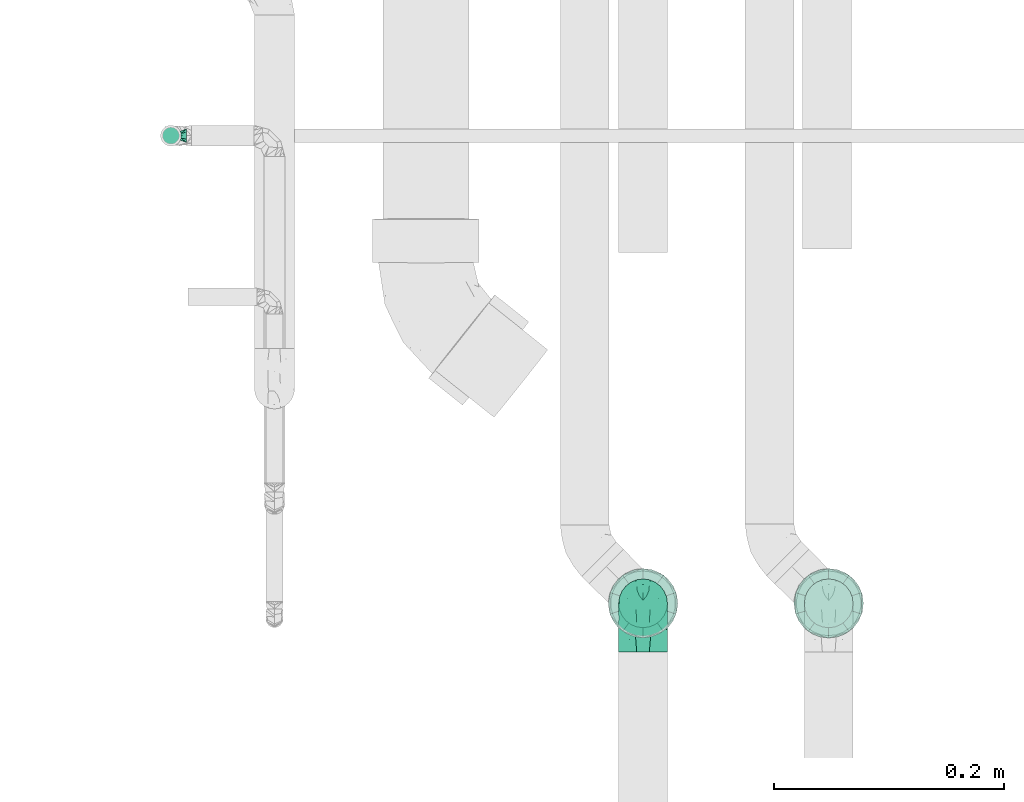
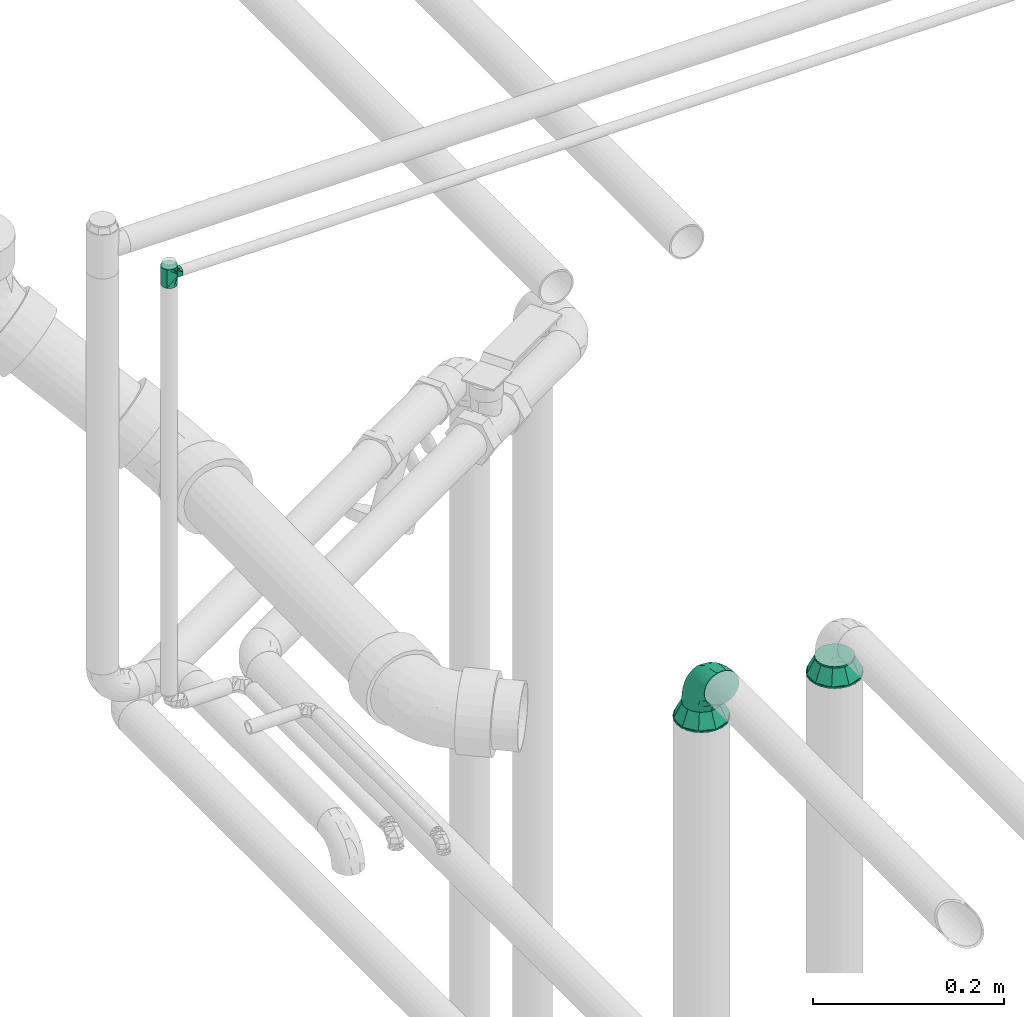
# One storey, part 69 of 108: 4 flow fittings.
"""IFC2X3 building model written with IfcOpenShell, lengths in millimetres."""

from ifc_helpers import new_model, entity, si_unit, converted_unit, derived_unit, direction, frame, origin_with_axes, place, context, subcontext, project, spatial, open_shell, surface_model, source, transform, mapped, type_object, element, save


model = new_model("IFC2X3")

# Units and contexts
model_context = context("Model", 3, precision=0.01, world=frame((0.0, 4.29681676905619e-09, 0.0)), true_north=direction((4.01073788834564e-13, 1.0)))
plan_context = context("Plan", 3, precision=0.01, world=frame((0.0, 4.29681676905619e-09, 0.0)), true_north=direction((4.01073788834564e-13, 1.0)))
body_context = subcontext(model_context, "Body", "Model", "MODEL_VIEW")
ifc_project = project(units=[converted_unit("PLANEANGLEUNIT", "DEGREE", entity("IfcPositiveLengthMeasure", 0.0174532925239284), si_unit("PLANEANGLEUNIT", "RADIAN"), dimensions=[0, 0, 0, 0, 0, 0, 0]), si_unit("AREAUNIT", "SQUARE_METRE"), si_unit("LENGTHUNIT", "METRE", prefix="MILLI"), si_unit("MASSUNIT", "GRAM", prefix="KILO"), si_unit("POWERUNIT", "WATT"), si_unit("PRESSUREUNIT", "PASCAL", prefix="KILO"), si_unit("FORCEUNIT", "NEWTON", prefix="KILO"), si_unit("ELECTRICVOLTAGEUNIT", "VOLT"), si_unit("ELECTRICCURRENTUNIT", "AMPERE"), si_unit("THERMODYNAMICTEMPERATUREUNIT", "DEGREE_CELSIUS"), si_unit("TIMEUNIT", "SECOND"), si_unit("VOLUMEUNIT", "CUBIC_METRE"), derived_unit("LINEARVELOCITYUNIT", [(si_unit("LENGTHUNIT", "METRE"), 1), (si_unit("TIMEUNIT", "SECOND"), -1)]), derived_unit("VOLUMETRICFLOWRATEUNIT", [(si_unit("VOLUMEUNIT", "CUBIC_METRE"), 1), (si_unit("TIMEUNIT", "SECOND"), -1)]), derived_unit("THERMALTRANSMITTANCEUNIT", [(si_unit("POWERUNIT", "WATT"), 1), (si_unit("THERMODYNAMICTEMPERATUREUNIT", "KELVIN"), -1), (si_unit("AREAUNIT", "SQUARE_METRE"), -1)]), derived_unit("SOUNDPRESSUREUNIT", [(si_unit("PRESSUREUNIT", "PASCAL"), 1)])], contexts=[model_context, plan_context])

# Site, building, storey
site_placement = place(None, frame((0.0, -4.29681676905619e-09, 0.0), z_axis=(0.0, 0.0, 1.0), x_axis=(1.0, 0.0, 0.0)))
site = spatial("IfcSite", under=ifc_project, at=site_placement, CompositionType="ELEMENT")
building_placement = place(site_placement, frame((0.0, 4.29681676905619e-09, 0.0), z_axis=(0.0, 0.0, 1.0), x_axis=(1.0, 0.0, 0.0)))
building = spatial("IfcBuilding", under=site, at=building_placement, Name="mc-building", CompositionType="ELEMENT")
storey_placement = place(building_placement, frame((0.0, 0.0, 210200.0), z_axis=(0.0, 0.0, 1.0), x_axis=(1.0, 0.0, 0.0)))
storey = spatial("IfcBuildingStorey", under=building, at=storey_placement, Name="Nivå F - 0,7 m", CompositionType="ELEMENT", Elevation=210200.0)

# Flow fittings
pipe_fitting_type_1 = type_object("IfcPipeFittingType", Name="magi_pipe_fe_elbow_short_001", PredefinedType="BEND")
shared_shape_1 = source(origin_with_axes(), body_context, "Body", "SurfaceModel", [
    surface_model("IfcShellBasedSurfaceModel", [(-42.4, 10.6, -18.35974), (-42.4, 5.48696, -20.47763), (-42.4, 0.0, -21.2), (-42.4, 14.99066, -14.99066), (-42.4, 20.47763, -5.48696), (-42.4, 18.35974, -10.6), (-42.4, -14.99066, 14.99066), (-42.4, -21.2, 0.0), (-42.4, -10.6, -18.35974), (-42.4, -14.99066, -14.99066), (-42.4, -5.48696, -20.47763), (-42.4, -18.35974, -10.6), (-42.4, -20.47763, -5.48696), (-42.4, 10.6, 18.35974), (-42.4, 20.47763, 5.48696), (-42.4, 18.35974, 10.6), (-42.4, 14.99066, 14.99066), (-42.4, 5.48696, 20.47763), (-42.4, 0.0, 21.2), (-42.4, -20.47763, 5.48696), (-42.4, -18.35974, 10.6), (-42.4, -10.6, 18.35974), (-42.4, -5.48696, 20.47763), (-42.4, 21.2, 0.0), (0.0, 42.4, -21.2), (-5.48696, 42.4, -20.47763), (-10.6, 42.4, -18.35974), (-14.99066, 42.4, -14.99066), (-18.35974, 42.4, -10.6), (-20.47763, 42.4, -5.48696), (21.2, 42.4, 0.0), (5.48696, 42.4, -20.47763), (14.99066, 42.4, -14.99066), (10.6, 42.4, -18.35974), (18.35974, 42.4, -10.6), (20.47763, 42.4, -5.48696), (14.99066, 42.4, 14.99066), (-20.47763, 42.4, 5.48696), (-10.6, 42.4, 18.35974), (-14.99066, 42.4, 14.99066), (-18.35974, 42.4, 10.6), (-5.48696, 42.4, 20.47763), (0.0, 42.4, 21.2), (18.35974, 42.4, 10.6), (20.47763, 42.4, 5.48696), (5.48696, 42.4, 20.47763), (10.6, 42.4, 18.35974), (-21.2, 42.4, 0.0), (-31.10239, -16.47009, 11.90111), (-27.83957, -12.231, 15.79732), (-30.23067, -18.77937, 0.0), (-18.74048, -13.50096, 10.69998), (-28.17586, -18.50359, 6.61185), (18.50359, 28.17586, 6.61185), (14.95929, 16.60735, 5.43468), (16.35874, 18.06133, 0.0), (-20.72313, 33.83635, 9.21426), (-17.70981, 33.00599, 13.92769), (-31.16033, -8.01664, 19.07348), (-32.38682, -2.80842, 20.83743), (-29.68688, 3.24967, 21.16387), (-7.74467, -9.46536, 0.0), (-16.60735, -14.95929, 5.43468), (-18.06133, -16.35874, 0.0), (-16.37932, -5.14532, 17.61254), (-21.10659, -0.19025, 20.54817), (-1.82445, -3.58377, 9.55223), (-0.35533, 0.43745, 12.66367), (-7.20655, -5.07682, 13.06146), (-33.14056, 17.6728, 13.91288), (-7.36799, 20.84806, 21.16196), (-15.70315, 15.70315, 20.68489), (-12.62356, 9.26422, 21.0908), (-36.67879, 12.83836, 17.27427), (-7.91358, 36.5686, 19.85759), (-2.90555, 31.71221, 21.14793), (-33.84689, 20.71971, 9.21285), (-33.51649, 22.58113, 4.66115), (-26.3226, 26.3226, 7.92474), (-32.67995, 8.31454, 20.02643), (-5.53379, 14.19921, 20.81623), (-10.53385, 3.88918, 19.79653), (-2.16577, 11.45378, 19.48254), (-3.78693, 3.78693, 17.3328), (12.231, 27.83957, 15.79732), (13.50096, 18.74047, 10.69998), (16.47009, 31.10239, 11.90111), (-22.53806, 14.38475, 19.60876), (-23.29615, 9.08095, 20.82061), (2.80842, 32.38682, 20.83743), (8.01664, 31.16033, 19.07348), (5.14532, 16.37932, 17.61254), (18.77937, 30.23067, 0.0), (-20.80278, 5.19491, 21.19095), (-19.62579, 22.38752, 17.42006), (-29.19336, 14.39093, 17.85259), (-22.31569, 34.20044, 4.54807), (-26.56962, 27.80621, 3.73106), (9.67657, 17.17133, 14.49993), (-24.04026, 31.8, 0.0), (-9.16861, 28.72652, 20.19004), (-12.09761, 21.9456, 20.37969), (-15.36991, 27.40112, 17.818), (-16.88976, 20.52477, 19.2896), (-12.95169, 35.54896, 17.36222), (-17.17133, -9.67657, 14.49993), (-21.98655, 28.10245, 11.99898), (-22.34699, 23.67592, 15.01692), (-27.22822, 22.77969, 11.82161), (0.19025, 21.10658, 20.54817), (4.8276, 7.36347, 13.42842), (-10.06209, -9.46364, 9.95114), (1.25876, -2.7536, 5.73797), (6.43781, 3.77591, 7.40371), (6.57528, 2.20066, 3.17705), (10.91934, 8.84313, 5.00748), (10.64415, 10.99764, 8.89767), (-31.8, 24.04026, 0.0), (-5.71381, -8.43063, 6.15529), (2.57199, -2.57199, 0.0), (9.46536, 7.74467, 0.0), (-17.17133, -9.67657, -14.49993), (-27.83957, -12.231, -15.79732), (-16.37932, -5.14532, -17.61254), (-18.74048, -13.50096, -10.69998), (-33.00599, 17.70981, -13.92769), (-35.54896, 12.95169, -17.36222), (-34.20044, 22.31569, -4.54807), (-28.17586, -18.50359, -6.61185), (-26.3226, 26.3226, -7.92474), (-33.83635, 20.72313, -9.21426), (-16.60735, -14.95929, -5.43468), (-20.52477, 16.88976, -19.2896), (-21.9456, 12.0976, -20.37969), (-27.40112, 15.36991, -17.818), (-12.83836, 36.67879, -17.27427), (-17.6728, 33.14056, -13.91288), (8.01664, 31.16033, -19.07348), (5.14532, 16.37932, -17.61254), (0.19025, 21.10658, -20.54817), (-36.5686, 7.91358, -19.85759), (-31.10239, -16.47009, -11.90111), (-31.16033, -8.01664, -19.07348), (-14.38475, 22.53806, -19.60876), (-8.31454, 32.67995, -20.02643), (-9.08095, 23.29615, -20.82061), (-32.38682, -2.80842, -20.83743), (-20.84806, 7.36799, -21.16196), (-15.70315, 15.70314, -20.68489), (-9.26422, 12.62356, -21.0908), (-31.71221, 2.90555, -21.14793), (-22.58113, 33.51649, -4.66115), (-20.71971, 33.84689, -9.21285), (-28.72652, 9.16861, -20.19004), (-27.80621, 26.56962, -3.73106), (-5.19491, 20.80278, -21.19095), (-22.38752, 19.62579, -17.42006), (-14.39093, 29.19336, -17.85259), (2.80842, 32.38682, -20.83743), (-3.24967, 29.68688, -21.16387), (16.47009, 31.10239, -11.90111), (12.231, 27.83957, -15.79732), (6.57528, 2.20067, -3.17705), (10.91934, 8.84313, -5.00749), (-14.19921, 5.53379, -20.81623), (-3.88918, 10.53385, -19.79653), (-11.45378, 2.16577, -19.48254), (1.25876, -2.7536, -5.73797), (-5.71381, -8.43063, -6.15529), (-1.82445, -3.58377, -9.55223), (13.50096, 18.74048, -10.69998), (18.50359, 28.17586, -6.61185), (14.95929, 16.60735, -5.43468), (-28.10245, 21.98655, -11.99898), (9.67657, 17.17133, -14.49993), (10.64415, 10.99764, -8.89767), (4.8276, 7.36347, -13.42842), (-23.67592, 22.34699, -15.01692), (-22.77969, 27.22822, -11.82161), (-21.10658, -0.19025, -20.54817), (-3.78693, 3.78693, -17.3328), (-7.20655, -5.07682, -13.06146), (-10.06209, -9.46364, -9.95113), (-0.35533, 0.43745, -12.66367), (6.43781, 3.77591, -7.40371)], [open_shell([[[0, 1, 2]], [[3, 0, 2]], [[4, 5, 3]], [[2, 4, 3]], [[6, 2, 7]], [[8, 9, 10]], [[11, 10, 9]], [[12, 7, 11]], [[2, 10, 11]], [[11, 7, 2]], [[6, 4, 2]], [[13, 14, 4]], [[15, 14, 16]], [[4, 6, 13]], [[16, 14, 13]], [[17, 13, 18]], [[19, 20, 7]], [[7, 20, 6]], [[21, 22, 6]], [[18, 6, 22]], [[6, 18, 13]], [[23, 4, 14]], [[24, 25, 26]], [[24, 26, 27]], [[27, 28, 29]], [[27, 29, 24]], [[24, 29, 30]], [[31, 32, 33]], [[31, 24, 32]], [[34, 30, 35]], [[32, 24, 34]], [[24, 30, 34]], [[29, 36, 30]], [[29, 37, 38]], [[39, 37, 40]], [[36, 29, 38]], [[38, 37, 39]], [[41, 42, 38]], [[30, 43, 44]], [[36, 43, 30]], [[36, 45, 46]], [[45, 36, 42]], [[38, 42, 36]], [[37, 29, 47]], [[6, 48, 49]], [[19, 7, 50]], [[51, 48, 52]], [[53, 54, 55]], [[48, 6, 20]], [[19, 52, 20]], [[40, 56, 57]], [[49, 21, 6]], [[49, 58, 21]], [[18, 59, 60]], [[61, 62, 63]], [[58, 64, 65]], [[66, 67, 68]], [[15, 16, 69]], [[70, 71, 72]], [[13, 73, 16]], [[22, 59, 18]], [[41, 74, 75]], [[18, 60, 17]], [[15, 69, 76]], [[16, 73, 69]], [[23, 14, 77]], [[14, 15, 76]], [[77, 76, 78]], [[17, 79, 13]], [[80, 81, 82]], [[68, 83, 64]], [[84, 36, 46]], [[85, 86, 84]], [[87, 79, 88]], [[21, 58, 22]], [[42, 89, 45]], [[53, 44, 43]], [[42, 41, 75]], [[84, 90, 91]], [[43, 86, 53]], [[92, 44, 53]], [[86, 43, 36]], [[90, 46, 45]], [[53, 55, 92]], [[88, 93, 72]], [[54, 53, 85]], [[87, 94, 95]], [[78, 96, 97]], [[98, 84, 91]], [[99, 96, 47]], [[79, 17, 60]], [[96, 78, 56]], [[62, 52, 63]], [[57, 39, 40]], [[100, 70, 75]], [[101, 102, 103]], [[19, 50, 52]], [[104, 38, 39]], [[74, 41, 38]], [[57, 102, 104]], [[105, 64, 49]], [[90, 84, 46]], [[40, 37, 56]], [[56, 106, 57]], [[102, 57, 107]], [[95, 107, 69]], [[76, 108, 78]], [[100, 101, 70]], [[89, 75, 109]], [[64, 58, 49]], [[63, 52, 50]], [[59, 58, 65]], [[105, 49, 51]], [[64, 83, 81]], [[89, 90, 45]], [[30, 44, 92]], [[109, 82, 91]], [[109, 91, 90]], [[91, 83, 110]], [[111, 68, 105]], [[66, 68, 111]], [[62, 51, 52]], [[66, 112, 113]], [[114, 115, 113]], [[98, 85, 84]], [[52, 48, 20]], [[49, 48, 51]], [[84, 86, 36]], [[53, 86, 85]], [[88, 79, 60]], [[73, 79, 95]], [[96, 56, 37]], [[78, 108, 106]], [[87, 103, 94]], [[100, 74, 104]], [[108, 69, 107]], [[78, 97, 77]], [[88, 72, 71]], [[109, 75, 70]], [[81, 72, 65]], [[70, 72, 80]], [[75, 89, 42]], [[90, 89, 109]], [[58, 59, 22]], [[60, 59, 65]], [[67, 83, 68]], [[110, 113, 116]], [[88, 60, 93]], [[87, 88, 71]], [[103, 87, 71]], [[79, 87, 95]], [[101, 103, 71]], [[94, 103, 102]], [[47, 96, 37]], [[96, 99, 97]], [[99, 117, 97]], [[97, 117, 77]], [[23, 77, 117]], [[14, 76, 77]], [[60, 65, 93]], [[65, 72, 93]], [[70, 101, 71]], [[102, 101, 100]], [[69, 108, 76]], [[106, 108, 107]], [[57, 106, 107]], [[78, 106, 56]], [[57, 104, 39]], [[100, 104, 102]], [[102, 107, 94]], [[95, 94, 107]], [[64, 81, 65]], [[82, 81, 83]], [[91, 82, 83]], [[80, 82, 109]], [[70, 80, 109]], [[81, 80, 72]], [[79, 73, 13]], [[69, 73, 95]], [[104, 74, 38]], [[75, 74, 100]], [[62, 61, 118]], [[111, 62, 118]], [[113, 115, 116]], [[119, 118, 61]], [[111, 105, 51]], [[113, 112, 114]], [[120, 55, 54]], [[68, 64, 105]], [[91, 110, 98]], [[116, 98, 110]], [[62, 111, 51]], [[66, 111, 118]], [[112, 66, 118]], [[67, 113, 110]], [[118, 119, 112]], [[114, 112, 119]], [[119, 120, 114]], [[115, 120, 54]], [[120, 115, 114]], [[116, 54, 85]], [[54, 116, 115]], [[116, 85, 98]], [[113, 67, 66]], [[83, 67, 110]], [[121, 122, 123]], [[122, 121, 124]], [[5, 125, 3]], [[3, 126, 0]], [[117, 127, 23]], [[50, 12, 128]], [[127, 129, 130]], [[128, 131, 63]], [[132, 133, 134]], [[27, 135, 136]], [[137, 138, 139]], [[0, 140, 1]], [[128, 11, 141]], [[142, 8, 10]], [[128, 63, 50]], [[5, 4, 130]], [[11, 9, 141]], [[143, 144, 145]], [[146, 10, 2]], [[147, 148, 149]], [[11, 128, 12]], [[124, 141, 122]], [[150, 2, 1]], [[151, 152, 129]], [[125, 134, 126]], [[153, 147, 150]], [[127, 154, 129]], [[145, 155, 149]], [[47, 29, 151]], [[143, 156, 157]], [[152, 29, 28]], [[24, 158, 159]], [[122, 9, 8]], [[27, 26, 135]], [[144, 26, 25]], [[32, 160, 161]], [[24, 31, 158]], [[120, 162, 163]], [[130, 125, 5]], [[27, 136, 28]], [[1, 140, 150]], [[33, 161, 137]], [[142, 122, 8]], [[24, 159, 25]], [[164, 165, 166]], [[167, 168, 169]], [[34, 160, 32]], [[161, 33, 32]], [[170, 160, 171]], [[131, 128, 124]], [[30, 92, 35]], [[35, 92, 171]], [[172, 171, 55]], [[35, 171, 34]], [[144, 25, 159]], [[130, 173, 125]], [[174, 175, 176]], [[136, 152, 28]], [[33, 137, 31]], [[122, 142, 123]], [[134, 125, 177]], [[157, 177, 136]], [[152, 178, 129]], [[153, 133, 147]], [[146, 150, 179]], [[146, 142, 10]], [[7, 12, 50]], [[179, 166, 123]], [[179, 123, 142]], [[123, 180, 181]], [[138, 137, 161]], [[55, 171, 92]], [[158, 137, 139]], [[174, 161, 170]], [[138, 180, 165]], [[180, 138, 176]], [[124, 121, 182]], [[176, 183, 180]], [[61, 131, 168]], [[169, 168, 182]], [[172, 170, 171]], [[122, 141, 9]], [[128, 141, 124]], [[171, 160, 34]], [[161, 160, 170]], [[145, 144, 159]], [[135, 144, 157]], [[127, 130, 4]], [[129, 178, 173]], [[143, 132, 156]], [[153, 140, 126]], [[178, 136, 177]], [[129, 154, 151]], [[145, 149, 148]], [[179, 150, 147]], [[165, 149, 139]], [[147, 149, 164]], [[150, 146, 2]], [[142, 146, 179]], [[137, 158, 31]], [[159, 158, 139]], [[174, 138, 161]], [[184, 169, 183]], [[145, 159, 155]], [[143, 145, 148]], [[132, 143, 148]], [[144, 143, 157]], [[133, 132, 148]], [[156, 132, 134]], [[23, 127, 4]], [[127, 117, 154]], [[117, 99, 154]], [[154, 99, 151]], [[47, 151, 99]], [[29, 152, 151]], [[159, 139, 155]], [[139, 149, 155]], [[147, 133, 148]], [[134, 133, 153]], [[136, 178, 152]], [[173, 178, 177]], [[125, 173, 177]], [[129, 173, 130]], [[125, 126, 3]], [[153, 126, 134]], [[134, 177, 156]], [[157, 156, 177]], [[138, 165, 139]], [[166, 165, 180]], [[123, 166, 180]], [[164, 166, 179]], [[147, 164, 179]], [[165, 164, 149]], [[144, 135, 26]], [[136, 135, 157]], [[126, 140, 0]], [[150, 140, 153]], [[182, 131, 124]], [[168, 119, 61]], [[119, 167, 162]], [[63, 131, 61]], [[172, 163, 175]], [[172, 55, 120]], [[123, 181, 121]], [[182, 121, 181]], [[175, 174, 170]], [[176, 138, 174]], [[169, 182, 181]], [[131, 182, 168]], [[183, 169, 181]], [[167, 169, 184]], [[162, 167, 184]], [[119, 168, 167]], [[163, 162, 184]], [[120, 119, 162]], [[175, 163, 184]], [[120, 163, 172]], [[176, 175, 184]], [[172, 175, 170]], [[180, 183, 181]], [[184, 183, 176]]])]),
])
flow_fitting_1_placement = place(storey_placement, frame((324448.8625, 462903.525, 2883.28479999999), z_axis=(-1.0, 0.0, 0.0), x_axis=(0.0, 1.0, 0.0)))
element("IfcFlowFitting", 1, at=flow_fitting_1_placement, inside=storey, type_object=pipe_fitting_type_1, Name="magi_pipe_fe_elbow_short_001", context=body_context, shape_type="MappedRepresentation", body=[
    mapped(shared_shape_1, transform((0.0, 0.0, 0.0), scale=1.0)),
])
pipe_fitting_type_2 = type_object("IfcPipeFittingType", Name="magi_pipe_fe_reducer_centric_short_001", PredefinedType="TRANSITION")
shared_shape_2 = source(origin_with_axes(), body_context, "Body", "SurfaceModel", [
    surface_model("IfcShellBasedSurfaceModel", [(-2.0, -10.6, -18.35974), (-2.0, 0.0, -21.2), (-2.0, -5.48696, -20.47763), (-2.0, 5.48696, -20.47763), (-2.0, 10.6, -18.35974), (-2.0, 0.0, 21.2), (-2.0, 5.48696, 20.47763), (-2.0, 10.6, 18.35974), (-2.0, 14.99066, 14.99066), (-2.0, 18.35974, 10.6), (-2.0, 20.47763, 5.48696), (-2.0, -21.2, 0.0), (-2.0, -14.99066, -14.99066), (-2.0, -5.48696, 20.47763), (-2.0, -14.99066, 14.99066), (-2.0, -10.6, 18.35974), (-2.0, -18.35974, 10.6), (-2.0, -20.47763, 5.48696), (-2.0, 20.47763, -5.48696), (-2.0, 14.99066, -14.99066), (-2.0, 18.35974, -10.6), (-2.0, -18.35974, -10.6), (-2.0, -20.47763, -5.48696), (-2.0, 21.2, 0.0), (0.0, 10.6, -18.35974), (0.0, 0.0, -21.2), (0.0, 5.48696, -20.47763), (0.0, 20.47763, -5.48696), (0.0, 14.99066, -14.99066), (0.0, -21.2, 0.0), (0.0, -14.99066, -14.99066), (0.0, 18.35974, -10.6), (0.0, -10.6, -18.35974), (0.0, -5.48696, -20.47763), (0.0, -18.35974, -10.6), (0.0, -20.47763, -5.48696), (0.0, -18.35974, 10.6), (0.0, 21.2, 0.0), (0.0, 20.47763, 5.48696), (0.0, 18.35974, 10.6), (0.0, 14.99066, 14.99066), (0.0, 0.0, 21.2), (0.0, 10.6, 18.35974), (0.0, 5.48696, 20.47763), (0.0, -14.99066, 14.99066), (0.0, -20.47763, 5.48696), (0.0, -5.48696, 20.47763), (0.0, -10.6, 18.35974), (20.0, 7.81634, -29.17096), (20.0, 15.1, -26.15397), (20.0, 21.35462, -21.35462), (20.0, 30.2, 0.0), (20.0, 26.15397, -15.1), (20.0, 29.17096, -7.81634), (20.0, -15.1, -26.15397), (20.0, -29.17096, 7.81634), (20.0, 0.0, -30.2), (20.0, -7.81634, -29.17096), (20.0, -21.35462, -21.35462), (20.0, -29.17096, -7.81634), (20.0, -26.15397, -15.1), (20.0, 29.17096, 7.81634), (20.0, 26.15397, 15.1), (20.0, 21.35462, 21.35462), (20.0, 0.0, 30.2), (20.0, 15.1, 26.15397), (20.0, 7.81634, 29.17096), (20.0, -21.35462, 21.35462), (20.0, -26.15397, 15.1), (20.0, -30.2, 0.0), (20.0, -7.81634, 29.17096), (20.0, -15.1, 26.15397), (18.0, 21.35462, 21.35462), (18.0, 0.0, 30.2), (18.0, 7.81634, 29.17096), (18.0, 15.1, 26.15397), (18.0, 26.15397, 15.1), (18.0, 29.17096, 7.81634), (18.0, -29.17096, 7.81634), (18.0, 30.2, 0.0), (18.0, -7.81634, 29.17096), (18.0, -21.35462, 21.35462), (18.0, -15.1, 26.15397), (18.0, -26.15397, 15.1), (18.0, -30.2, 0.0), (18.0, 29.17096, -7.81634), (18.0, 26.15397, -15.1), (18.0, 21.35462, -21.35462), (18.0, 15.1, -26.15397), (18.0, 7.81634, -29.17096), (18.0, -15.1, -26.15397), (18.0, -29.17096, -7.81634), (18.0, -21.35462, -21.35462), (18.0, -26.15397, -15.1), (18.0, 0.0, -30.2), (18.0, -7.81634, -29.17096), (18.0, 9.33231, 28.72191), (18.0, -9.33231, 28.72191), (18.0, 24.43231, -17.75111), (18.0, 24.43231, 17.75111), (18.0, -24.43231, 17.75111), (18.0, -24.43231, -17.75111), (18.0, -9.33231, -28.72191), (18.0, 9.33231, -28.72191), (0.0, 6.55116, 20.1624), (0.0, -6.55116, 20.1624), (0.0, -17.15116, -12.46105), (0.0, -17.15116, 12.46105), (0.0, 17.15116, 12.46105), (0.0, 17.15116, -12.46105), (0.0, -6.55116, -20.1624), (0.0, 6.55116, -20.1624), (18.0, -27.31616, -8.87556), (0.0, -19.17558, -6.23052), (0.0, 0.0, -20.1624), (18.0, 0.0, -28.72191), (0.0, -11.85116, -16.31172), (18.0, -16.88231, -23.23651), (18.0, 28.43849, -5.42138), (18.0, 26.67698, -10.84276), (0.0, 19.17558, -6.23052), (18.0, 16.88231, -23.23651), (0.0, 11.85116, -16.31172), (18.0, 27.31616, 8.87556), (0.0, 19.17558, 6.23052), (0.0, 0.0, 20.1624), (18.0, 0.0, 28.72191), (0.0, 11.85116, 16.31172), (18.0, 16.88231, 23.23651), (18.0, -28.43849, 5.42138), (18.0, -26.67698, 10.84276), (0.0, -19.17558, 6.23052), (18.0, -16.88231, 23.23651), (0.0, -11.85116, 16.31172)], [open_shell([[[0, 1, 2]], [[3, 1, 4]], [[5, 6, 7]], [[5, 7, 8]], [[8, 9, 10]], [[8, 10, 5]], [[11, 5, 12]], [[13, 14, 15]], [[13, 5, 14]], [[16, 11, 17]], [[14, 5, 16]], [[5, 11, 16]], [[5, 10, 12]], [[10, 18, 4]], [[19, 18, 20]], [[12, 10, 4]], [[4, 18, 19]], [[11, 21, 22]], [[12, 21, 11]], [[0, 12, 4]], [[1, 0, 4]], [[18, 10, 23]], [[24, 25, 26]], [[27, 24, 28]], [[29, 30, 24]], [[27, 28, 31]], [[27, 29, 24]], [[25, 32, 33]], [[25, 24, 32]], [[34, 29, 35]], [[32, 24, 30]], [[34, 30, 29]], [[36, 27, 37]], [[38, 39, 40]], [[38, 40, 41]], [[42, 43, 41]], [[42, 41, 40]], [[38, 41, 44]], [[29, 36, 45]], [[27, 36, 29]], [[44, 46, 47]], [[36, 38, 44]], [[41, 46, 44]], [[36, 37, 38]], [[22, 35, 11]], [[21, 34, 22]], [[32, 12, 0]], [[21, 12, 30]], [[33, 0, 2]], [[22, 34, 35]], [[35, 29, 11]], [[33, 32, 0]], [[30, 12, 32]], [[30, 34, 21]], [[25, 33, 2]], [[2, 1, 25]], [[3, 26, 1]], [[4, 24, 3]], [[31, 19, 20]], [[4, 19, 28]], [[27, 20, 18]], [[4, 28, 24]], [[24, 26, 3]], [[37, 27, 18]], [[31, 20, 27]], [[31, 28, 19]], [[23, 37, 18]], [[1, 26, 25]], [[10, 38, 23]], [[9, 39, 10]], [[42, 8, 7]], [[9, 8, 40]], [[43, 7, 6]], [[10, 39, 38]], [[38, 37, 23]], [[43, 42, 7]], [[40, 8, 42]], [[40, 39, 9]], [[41, 43, 6]], [[6, 5, 41]], [[13, 46, 5]], [[15, 47, 13]], [[36, 14, 16]], [[15, 14, 44]], [[45, 16, 17]], [[15, 44, 47]], [[47, 46, 13]], [[29, 45, 17]], [[36, 16, 45]], [[36, 44, 14]], [[11, 29, 17]], [[5, 46, 41]], [[48, 49, 50]], [[48, 50, 51]], [[52, 53, 51]], [[52, 51, 50]], [[54, 48, 55]], [[56, 54, 57]], [[56, 48, 54]], [[58, 59, 60]], [[59, 58, 54]], [[54, 55, 59]], [[55, 48, 51]], [[61, 62, 63]], [[63, 64, 51]], [[65, 66, 64]], [[65, 64, 63]], [[51, 64, 67]], [[55, 67, 68]], [[69, 59, 55]], [[67, 70, 71]], [[55, 51, 67]], [[70, 67, 64]], [[61, 63, 51]], [[72, 73, 74]], [[72, 74, 75]], [[72, 76, 77]], [[73, 72, 78]], [[79, 78, 72]], [[80, 81, 82]], [[80, 73, 81]], [[81, 78, 83]], [[73, 78, 81]], [[78, 79, 84]], [[79, 72, 77]], [[79, 85, 86]], [[79, 86, 87]], [[87, 88, 89]], [[87, 89, 79]], [[89, 90, 84]], [[91, 92, 93]], [[92, 91, 90]], [[90, 94, 95]], [[91, 84, 90]], [[89, 94, 90]], [[84, 79, 89]], [[91, 59, 84]], [[93, 60, 91]], [[54, 92, 90]], [[93, 92, 58]], [[57, 90, 95]], [[91, 60, 59]], [[59, 69, 84]], [[57, 54, 90]], [[58, 92, 54]], [[58, 60, 93]], [[56, 57, 95]], [[95, 94, 56]], [[89, 48, 94]], [[88, 49, 89]], [[52, 87, 86]], [[88, 87, 50]], [[53, 86, 85]], [[88, 50, 49]], [[49, 48, 89]], [[51, 53, 85]], [[52, 86, 53]], [[52, 50, 87]], [[79, 51, 85]], [[94, 48, 56]], [[77, 61, 79]], [[76, 62, 77]], [[65, 72, 75]], [[76, 72, 63]], [[66, 75, 74]], [[77, 62, 61]], [[61, 51, 79]], [[66, 65, 75]], [[63, 72, 65]], [[63, 62, 76]], [[64, 66, 74]], [[74, 73, 64]], [[80, 70, 73]], [[82, 71, 80]], [[68, 81, 83]], [[82, 81, 67]], [[55, 83, 78]], [[82, 67, 71]], [[71, 70, 80]], [[69, 55, 78]], [[68, 83, 55]], [[68, 67, 81]], [[84, 69, 78]], [[73, 70, 64]], [[84, 96, 97]], [[96, 98, 99]], [[79, 99, 98]], [[84, 97, 100]], [[84, 101, 98]], [[98, 102, 103]], [[102, 98, 101]], [[84, 98, 96]], [[104, 37, 105]], [[105, 106, 107]], [[29, 107, 106]], [[104, 108, 37]], [[37, 109, 106]], [[109, 110, 106]], [[110, 109, 111]], [[37, 106, 105]], [[112, 29, 113]], [[114, 103, 115]], [[102, 116, 110]], [[29, 112, 84]], [[113, 101, 112]], [[117, 106, 116]], [[113, 106, 101]], [[115, 102, 110]], [[103, 114, 111]], [[118, 119, 120]], [[111, 121, 103]], [[121, 111, 122]], [[119, 109, 120]], [[106, 117, 101]], [[122, 98, 121]], [[109, 119, 98]], [[102, 117, 116]], [[37, 118, 120]], [[115, 110, 114]], [[118, 37, 79]], [[122, 109, 98]], [[123, 37, 124]], [[125, 97, 126]], [[96, 127, 104]], [[37, 123, 79]], [[124, 99, 123]], [[128, 108, 127]], [[124, 108, 99]], [[126, 96, 104]], [[97, 125, 105]], [[129, 130, 131]], [[105, 132, 97]], [[132, 105, 133]], [[130, 107, 131]], [[108, 128, 99]], [[133, 100, 132]], [[107, 130, 100]], [[96, 128, 127]], [[29, 129, 131]], [[126, 104, 125]], [[129, 29, 84]], [[133, 107, 100]]])]),
])
for number, where, z_axis, x_axis, name in (
    (2, (324610.22236, 462903.525, 2840.8848), (1.0, 0.0, 0.0), (0.0, 0.0, -1.0), "magi_pipe_fe_reducer_centric_short_001"),
    (3, (324448.8625, 462903.525, 2840.8848), (1.0, 0.0, 0.0), (0.0, 0.0, -1.0), "magi_pipe_fe_reducer_centric_short_001"),
):
    element("IfcFlowFitting", number, at=place(storey_placement, frame(where, z_axis=z_axis, x_axis=x_axis)), inside=storey, type_object=pipe_fitting_type_2, Name=name, context=body_context, shape_type="MappedRepresentation", body=[
        mapped(shared_shape_2, transform((0.0, 0.0, 0.0), scale=1.0)),
    ])
pipe_fitting_type_3 = type_object("IfcPipeFittingType", Name="magi_pipe_tee_centric_90_001", PredefinedType="JUNCTION")
shared_shape_3 = source(origin_with_axes(), body_context, "Body", "SurfaceModel", [
    surface_model("IfcShellBasedSurfaceModel", [(-12.0, 4.5, -7.79423), (-12.0, 2.32937, -8.69333), (-12.0, 0.0, -9.0), (-12.0, -2.32937, -8.69333), (-12.0, 7.79423, -4.5), (-12.0, 6.36396, -6.36396), (-12.0, 8.69333, -2.32937), (-12.0, -4.5, -7.79423), (-12.0, -6.36396, -6.36396), (-12.0, -7.79423, -4.5), (-12.0, -8.69333, -2.32937), (-12.0, -9.0, 0.0), (-12.0, -4.5, 7.79423), (-12.0, 8.69333, 2.32937), (-12.0, 9.0, 0.0), (-12.0, 2.32937, 8.69333), (-12.0, 7.79423, 4.5), (-12.0, 4.5, 7.79423), (-12.0, 6.36396, 6.36396), (-12.0, 0.0, 9.0), (-12.0, -6.36396, 6.36396), (-12.0, -7.79423, 4.5), (-12.0, -8.69333, 2.32937), (-12.0, -2.32937, 8.69333), (12.0, 0.0, -9.0), (12.0, 2.32937, -8.69333), (12.0, 4.5, -7.79423), (12.0, -9.0, 0.0), (12.0, -4.5, 7.79423), (12.0, 7.79423, -4.5), (12.0, 6.36396, -6.36396), (12.0, 8.69333, 2.32937), (12.0, -4.5, -7.79423), (12.0, -2.32937, -8.69333), (12.0, -6.36396, -6.36396), (12.0, -8.69333, -2.32937), (12.0, -7.79423, -4.5), (12.0, 8.69333, -2.32937), (12.0, 9.0, 0.0), (12.0, 2.32937, 8.69333), (12.0, 7.79423, 4.5), (12.0, 4.5, 7.79423), (12.0, 6.36396, 6.36396), (12.0, -7.79423, 4.5), (12.0, -6.36396, 6.36396), (12.0, -8.69333, 2.32937), (12.0, 0.0, 9.0), (12.0, -2.32937, 8.69333), (6.0, -9.0, 0.0), (5.61867, -8.7504, 2.10489), (4.5736, -8.11898, 3.88358), (3.02659, -7.35937, 5.18071), (1.07353, -6.79356, 5.90318), (-1.07534, -6.79385, 5.90285), (-6.0, -9.0, 0.0), (-5.61888, -8.75053, 2.10432), (-4.57488, -8.1197, 3.88207), (-3.02712, -7.35958, 5.1804), (1.07353, -6.79356, -5.90318), (3.02659, -7.35937, -5.18071), (-3.02712, -7.35958, -5.1804), (-1.07534, -6.79385, -5.90285), (4.5736, -8.11898, -3.88358), (5.61867, -8.7504, -2.10489), (-4.57488, -8.1197, -3.88207), (-5.61888, -8.75053, -2.10432), (1.55291, -13.5, -5.79555), (-6.0, -13.5, 0.0), (0.0, -13.5, -6.0), (5.19615, -13.5, -3.0), (3.0, -13.5, -5.19615), (5.79555, -13.5, -1.55291), (4.24264, -13.5, -4.24264), (-4.24264, -13.5, 4.24264), (-3.0, -13.5, -5.19615), (-5.19615, -13.5, -3.0), (-4.24264, -13.5, -4.24264), (-1.55291, -13.5, -5.79555), (-5.79555, -13.5, -1.55291), (5.19615, -13.5, 3.0), (6.0, -13.5, 0.0), (5.79555, -13.5, 1.55291), (-3.0, -13.5, 5.19615), (3.0, -13.5, 5.19615), (4.24264, -13.5, 4.24264), (0.0, -13.5, 6.0), (1.55291, -13.5, 5.79555), (-5.79555, -13.5, 1.55291), (-5.19615, -13.5, 3.0), (-1.55291, -13.5, 5.79555)], [open_shell([[[0, 1, 2]], [[0, 2, 3]], [[3, 4, 0]], [[5, 0, 4]], [[4, 3, 6]], [[7, 8, 3]], [[8, 6, 3]], [[9, 10, 8]], [[11, 8, 10]], [[8, 11, 6]], [[11, 12, 6]], [[13, 14, 15]], [[16, 13, 15]], [[16, 15, 17]], [[18, 16, 17]], [[19, 15, 14]], [[20, 12, 21]], [[11, 22, 21]], [[23, 19, 12]], [[21, 12, 11]], [[12, 19, 14]], [[14, 6, 12]], [[24, 25, 26]], [[27, 24, 26]], [[27, 26, 28]], [[29, 26, 30]], [[26, 29, 31]], [[24, 32, 33]], [[24, 34, 32]], [[34, 35, 36]], [[35, 34, 27]], [[24, 27, 34]], [[29, 37, 38]], [[28, 26, 31]], [[39, 31, 40]], [[41, 39, 40]], [[41, 40, 42]], [[28, 31, 39]], [[43, 28, 44]], [[43, 45, 27]], [[28, 46, 47]], [[27, 28, 43]], [[39, 46, 28]], [[29, 38, 31]], [[27, 45, 48]], [[49, 48, 45]], [[45, 43, 49]], [[43, 44, 50]], [[28, 51, 50]], [[46, 52, 51]], [[53, 52, 18]], [[43, 50, 49]], [[54, 55, 22]], [[22, 11, 54]], [[55, 21, 22]], [[12, 56, 57]], [[56, 20, 21]], [[12, 20, 56]], [[56, 21, 55]], [[19, 57, 53]], [[44, 28, 50]], [[47, 46, 51]], [[39, 52, 46]], [[52, 39, 41]], [[42, 18, 52]], [[16, 40, 31]], [[42, 40, 18]], [[52, 41, 42]], [[13, 31, 38]], [[19, 53, 15]], [[23, 57, 19]], [[12, 57, 23]], [[13, 16, 31]], [[17, 53, 18]], [[40, 16, 18]], [[15, 53, 17]], [[38, 14, 13]], [[47, 51, 28]], [[37, 14, 38]], [[6, 37, 29]], [[29, 30, 4]], [[30, 26, 58]], [[25, 24, 58]], [[25, 58, 26]], [[5, 30, 58]], [[24, 33, 59]], [[5, 4, 30]], [[4, 6, 29]], [[6, 14, 37]], [[60, 3, 2]], [[61, 1, 0]], [[1, 61, 2]], [[61, 0, 5]], [[3, 60, 7]], [[59, 33, 32]], [[32, 62, 59]], [[58, 24, 59]], [[34, 36, 62]], [[61, 5, 58]], [[35, 27, 48]], [[62, 36, 63]], [[48, 63, 35]], [[63, 36, 35]], [[64, 7, 60]], [[64, 9, 8]], [[7, 64, 8]], [[2, 61, 60]], [[65, 10, 9]], [[10, 54, 11]], [[54, 10, 65]], [[65, 9, 64]], [[34, 62, 32]], [[66, 67, 68]], [[69, 66, 70]], [[69, 71, 66]], [[69, 70, 72]], [[73, 67, 66]], [[74, 75, 76]], [[75, 74, 77]], [[75, 67, 78]], [[75, 77, 68]], [[68, 67, 75]], [[66, 71, 79]], [[80, 81, 79]], [[79, 73, 66]], [[82, 79, 83]], [[83, 79, 84]], [[85, 83, 86]], [[87, 73, 88]], [[67, 73, 87]], [[82, 85, 89]], [[82, 73, 79]], [[85, 82, 83]], [[79, 71, 80]], [[54, 67, 87]], [[55, 88, 73]], [[87, 88, 54]], [[73, 82, 55]], [[54, 88, 55]], [[56, 55, 89]], [[53, 57, 51]], [[56, 50, 57]], [[89, 85, 56]], [[82, 89, 55]], [[86, 50, 85]], [[83, 49, 86]], [[49, 84, 79]], [[83, 84, 49]], [[48, 79, 81]], [[51, 52, 53]], [[50, 51, 57]], [[79, 48, 49]], [[49, 50, 86]], [[48, 81, 80]], [[56, 85, 50]], [[48, 80, 71]], [[63, 69, 72]], [[71, 69, 48]], [[72, 70, 63]], [[48, 69, 63]], [[62, 63, 66]], [[58, 59, 61]], [[62, 60, 59]], [[66, 68, 62]], [[70, 66, 63]], [[77, 64, 68]], [[74, 65, 77]], [[65, 76, 75]], [[74, 76, 65]], [[54, 75, 78]], [[60, 61, 59]], [[64, 60, 62]], [[75, 54, 65]], [[65, 64, 77]], [[54, 78, 67]], [[62, 68, 64]]])]),
])
flow_fitting_2_placement = place(storey_placement, frame((324038.4875, 463310.0, 3284.41390000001), z_axis=(0.0, 1.0, 0.0), x_axis=(0.0, 0.0, -1.0)))
element("IfcFlowFitting", 4, at=flow_fitting_2_placement, inside=storey, type_object=pipe_fitting_type_3, Name="magi_pipe_tee_centric_90_001", context=body_context, shape_type="MappedRepresentation", body=[
    mapped(shared_shape_3, transform((0.0, 0.0, 0.0), scale=1.0)),
])

save(model, "model.ifc")
